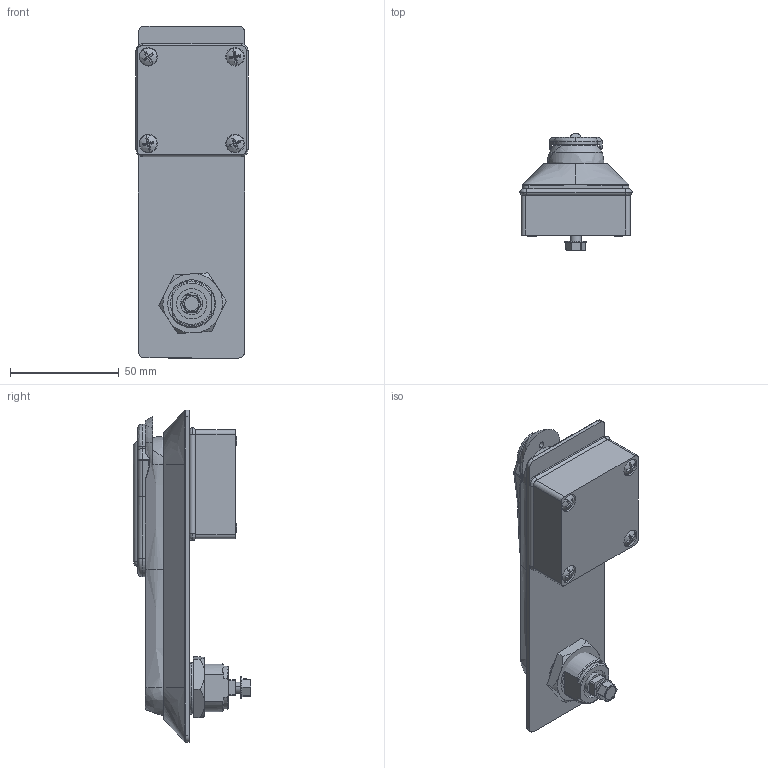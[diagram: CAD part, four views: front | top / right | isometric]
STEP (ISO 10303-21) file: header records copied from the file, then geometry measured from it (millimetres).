
FILE_DESCRIPTION (( 'STEP AP214' ), '1' );
FILE_NAME ('RS510.STEP', '2010-02-25T17:47:47', ( '£ukaszC' ), ( '' ), 'SwSTEP 2.0', 'SolidWorks 2008', '' );
FILE_SCHEMA (( 'AUTOMOTIVE_DESIGN' ));
Length unit declared in the file: millimetre
Products named in the file (14): Wkrêt 3,6 x 16_Domyœlna_Domyœlna; 1B.RS 100.01.06.00_Domyœlna_Domyœlna; M5 x 16_Domyœlna_Domyœlna; 1B.RS510.02.02.00_Domyœlna_Domyœlna; 1B.RS100.01.03.00_Domyœlna_Domyœlna; 1B.RS400-U.01.01.1_Domyœlna; RS200-nakrêtka-ma³a_Domyœlna_Domyœlna; Zapinka RESS_Domyœlna_Domyœlna; 1B.RS100.01.04.00_Domyœlna_Domyœlna; 1B.RS400.01.02.02_Domyœlna_Domyœlna; RS510; O-RING 45 x 3_Domyœlna_Domyœlna; 1B.RS500.02.01.1_Domyœlna; O-RING 12x2_Domyœlna_Domyœlna
Assembly tree (16 placements, depth 2):
  RS510
    1B.RS100.01.04.00_Domyœlna_Domyœlna
    O-RING 45 x 3_Domyœlna_Domyœlna
    O-RING 12x2_Domyœlna_Domyœlna
    1B.RS100.01.03.00_Domyœlna_Domyœlna
    1B.RS500.02.01.1_Domyœlna
    Wkrêt 3,6 x 16_Domyœlna_Domyœlna  x4
    1B.RS400.01.02.02_Domyœlna_Domyœlna
    RS200-nakrêtka-ma³a_Domyœlna_Domyœlna
    Zapinka RESS_Domyœlna_Domyœlna
    1B.RS510.02.02.00_Domyœlna_Domyœlna
    1B.RS 100.01.06.00_Domyœlna_Domyœlna
    M5 x 16_Domyœlna_Domyœlna
    1B.RS400-U.01.01.1_Domyœlna
Bounding box: 51.67 x 54.07 x 153 mm (x, y, z)
Volume: 108899 mm3; surface area: 67327.9 mm2
Topology: 16 solids, 16 shells, 805 faces, 2082 edges, 1325 vertices
Faces by surface type: cylinder 335, plane 312, bspline 121, cone 37
Entity records: 36147 total; most frequent: CARTESIAN_POINT 22026, ORIENTED_EDGE 3026, DIRECTION 2661, EDGE_CURVE 1513, AXIS2_PLACEMENT_3D 974, VERTEX_POINT 968, VECTOR 713, LINE 713
